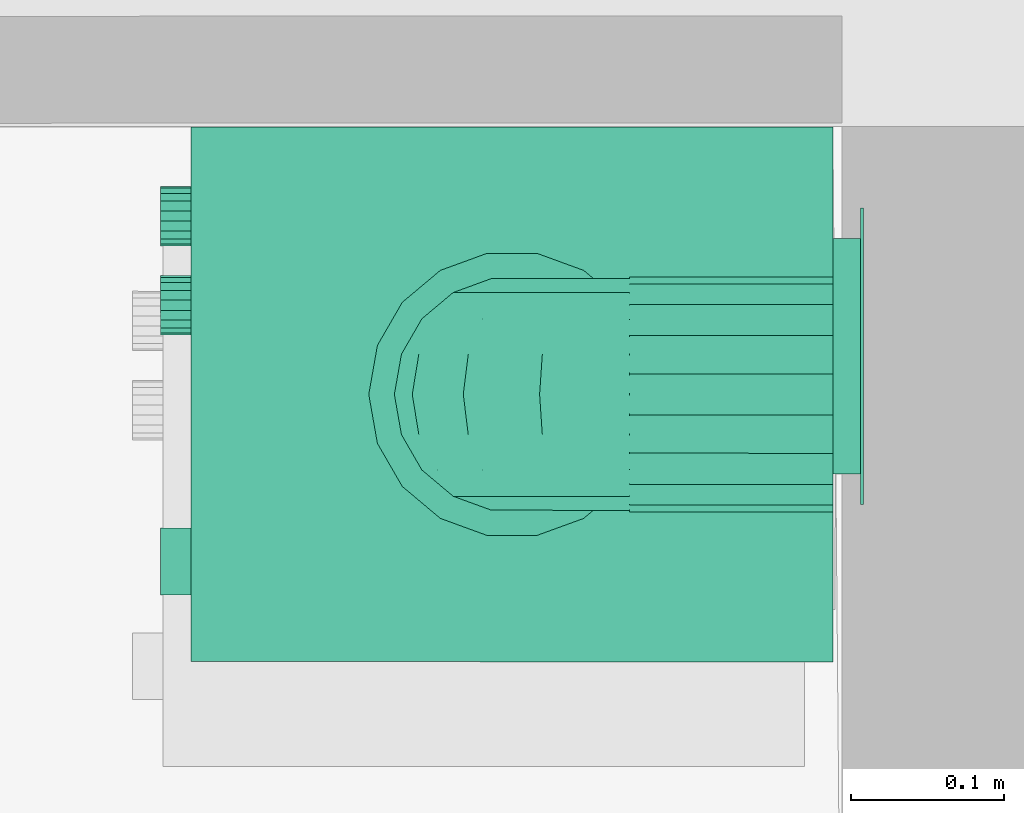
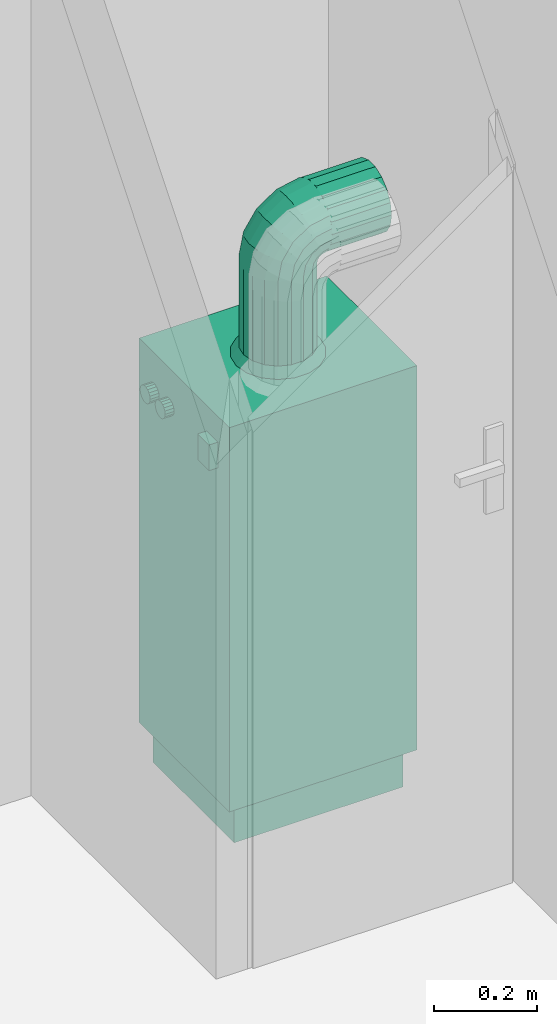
# One storey, part 129 of 171: 1 distribution element.
"""IFC2X3 building model written with IfcOpenShell, lengths in millimetres."""

from ifc_helpers import new_model, entity, si_unit, converted_unit, derived_unit, money_unit, direction, frame, origin_with_axes, place, context, subcontext, project, spatial, open_shell, faceted_brep, surface_model, type_object, element, save


model = new_model("IFC2X3")

# Units and contexts
model_context = context("Model", 3, precision=0.01, world=origin_with_axes(), true_north=direction((0.0, 1.0)))
body_context = subcontext(model_context, "Body", "Model", "MODEL_VIEW")
ifc_project = project(units=[si_unit("LENGTHUNIT", "METRE", prefix="MILLI"), si_unit("AREAUNIT", "SQUARE_METRE"), si_unit("VOLUMEUNIT", "CUBIC_METRE"), converted_unit("PLANEANGLEUNIT", "DEGREE", entity("IfcPlaneAngleMeasure", 0.0174532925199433), si_unit("PLANEANGLEUNIT", "RADIAN"), dimensions=[0, 0, 0, 0, 0, 0, 0]), money_unit("USD"), converted_unit("TIMEUNIT", "Year", entity("IfcTimeMeasure", 31557600.0), si_unit("TIMEUNIT", "SECOND"), dimensions=[0, 0, 1, 0, 0, 0, 0]), si_unit("MASSUNIT", "GRAM", prefix="KILO"), si_unit("THERMODYNAMICTEMPERATUREUNIT", "DEGREE_CELSIUS"), si_unit("LUMINOUSINTENSITYUNIT", "LUMEN"), si_unit("ENERGYUNIT", "JOULE", prefix="MEGA"), derived_unit("THERMALCONDUCTANCEUNIT", [(si_unit("POWERUNIT", "WATT"), 1), (si_unit("LENGTHUNIT", "METRE"), -1), (si_unit("THERMODYNAMICTEMPERATUREUNIT", "KELVIN"), -1)]), derived_unit("SPECIFICHEATCAPACITYUNIT", [(si_unit("ENERGYUNIT", "JOULE"), 1), (si_unit("MASSUNIT", "GRAM", prefix="KILO"), -1), (si_unit("THERMODYNAMICTEMPERATUREUNIT", "KELVIN"), -1)]), derived_unit("MASSDENSITYUNIT", [(si_unit("MASSUNIT", "GRAM", prefix="KILO"), 1), (si_unit("VOLUMEUNIT", "CUBIC_METRE"), -1)])], contexts=[model_context])

# Site, building, storey
site_placement = place(None, origin_with_axes())
site = spatial("IfcSite", under=ifc_project, at=site_placement, Name="Site", CompositionType="ELEMENT")
building_placement = place(site_placement, origin_with_axes())
building = spatial("IfcBuilding", under=site, at=building_placement, Name="Bâtiment", CompositionType="ELEMENT")
storey_placement = place(building_placement, frame((0.0, 0.0, 3000.0), z_axis=(0.0, 0.0, 1.0), x_axis=(1.0, 0.0, 0.0)))
storey = spatial("IfcBuildingStorey", under=building, at=storey_placement, Name="rdc", CompositionType="ELEMENT", Elevation=3000.0)

# Distribution element
distribution_element_type = type_object("IfcDistributionElementType", Name="Chaudière à gaz 27")
distribution_element_placement = place(storey_placement, frame((2233590.622808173, -652762.7821506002, 0.0), z_axis=(0.0, 0.0, 1.0), x_axis=(-0.0001702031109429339, -0.9999999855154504, 0.0)))
element("IfcDistributionElement", 1, at=distribution_element_placement, inside=storey, type_object=distribution_element_type, Name="Obj.-003", context=body_context, shape_type="SurfaceModel", body=[
    surface_model("IfcShellBasedSurfaceModel", [(-200.0, 420.0, 34.90909090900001), (-200.0, 438.0, 34.90909090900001), (-180.0709335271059, 438.0, 37.53280228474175), (-180.0709335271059, 420.0, 37.53280228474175), (-219.9290664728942, 420.0, 37.53280228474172), (-219.9290664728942, 438.0, 37.53280228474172), (-161.5, 438.0, 45.22513481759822), (-161.5, 420.0, 45.22513481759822), (-238.5000000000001, 420.0, 45.22513481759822), (-238.5000000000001, 438.0, 45.22513481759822), (-145.5527778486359, 438.0, 57.46186875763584), (-145.5527778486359, 420.0, 57.46186875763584), (-254.4472221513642, 420.0, 57.46186875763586), (-254.4472221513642, 438.0, 57.46186875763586), (-133.3160439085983, 438.0, 73.409090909), (-133.3160439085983, 420.0, 73.409090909), (-266.6839560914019, 420.0, 73.40909090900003), (-266.6839560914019, 438.0, 73.40909090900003), (-125.6237113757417, 438.0, 91.9800244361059), (-125.6237113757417, 420.0, 91.9800244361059), (-274.3762886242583, 420.0, 91.98002443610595), (-274.3762886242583, 438.0, 91.98002443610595), (-123.0, 438.0, 111.909090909), (-123.0, 420.0, 111.909090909), (-277.0, 420.0, 111.909090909), (-277.0, 438.0, 111.909090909), (-125.6237113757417, 438.0, 131.8381573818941), (-125.6237113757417, 420.0, 131.8381573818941), (-274.3762886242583, 420.0, 131.8381573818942), (-274.3762886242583, 438.0, 131.8381573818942), (-133.3160439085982, 438.0, 150.409090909), (-133.3160439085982, 420.0, 150.409090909), (-266.6839560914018, 420.0, 150.4090909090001), (-266.6839560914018, 438.0, 150.4090909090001), (-145.5527778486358, 438.0, 166.3563130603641), (-145.5527778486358, 420.0, 166.3563130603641), (-254.4472221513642, 420.0, 166.3563130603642), (-254.4472221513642, 438.0, 166.3563130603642), (-161.5, 438.0, 178.5930470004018), (-161.5, 420.0, 178.5930470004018), (-238.5, 420.0, 178.5930470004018), (-238.5, 438.0, 178.5930470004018), (-180.0709335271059, 438.0, 186.2853795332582), (-180.0709335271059, 420.0, 186.2853795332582), (-219.929066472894, 420.0, 186.2853795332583), (-219.929066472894, 438.0, 186.2853795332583), (-200.0, 438.0, 188.909090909), (-200.0, 420.0, 188.909090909)], [open_shell([[[0, 1, 2, 3]], [[4, 5, 1, 0]], [[3, 2, 6, 7]], [[8, 9, 5, 4]], [[7, 6, 10, 11]], [[12, 13, 9, 8]], [[11, 10, 14, 15]], [[16, 17, 13, 12]], [[15, 14, 18, 19]], [[20, 21, 17, 16]], [[19, 18, 22, 23]], [[24, 25, 21, 20]], [[23, 22, 26, 27]], [[28, 29, 25, 24]], [[27, 26, 30, 31]], [[32, 33, 29, 28]], [[31, 30, 34, 35]], [[36, 37, 33, 32]], [[35, 34, 38, 39]], [[40, 41, 37, 36]], [[39, 38, 42, 43]], [[44, 45, 41, 40]], [[43, 42, 46, 47]], [[47, 46, 45, 44]]])]),
    faceted_brep([(-200.0, 438.0, 14.909090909), (-200.0, 440.0, 14.909090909), (-174.8945526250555, 440.0, 18.21428575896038), (-174.8945526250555, 438.0, 18.21428575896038), (-225.1054473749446, 438.0, 18.21428575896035), (-225.1054473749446, 440.0, 18.21428575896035), (-248.5000000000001, 440.0, 27.90462674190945), (-268.5893577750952, 440.0, 43.31973313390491), (-284.0044641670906, 440.0, 63.40909090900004), (-293.6948051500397, 440.0, 86.80364353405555), (-297.0000000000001, 440.0, 111.909090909), (-293.6948051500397, 440.0, 137.0145382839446), (-284.0044641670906, 440.0, 160.4090909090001), (-268.5893577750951, 440.0, 180.4984486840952), (-248.5, 440.0, 195.9135550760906), (-225.1054473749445, 440.0, 205.6038960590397), (-199.9999999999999, 440.0, 208.909090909), (-174.8945526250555, 440.0, 205.6038960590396), (-151.5, 440.0, 195.9135550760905), (-131.4106422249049, 440.0, 180.4984486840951), (-115.9955358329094, 440.0, 160.409090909), (-106.3051948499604, 440.0, 137.0145382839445), (-103.0, 440.0, 111.909090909), (-106.3051948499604, 440.0, 86.80364353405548), (-115.9955358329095, 440.0, 63.40909090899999), (-131.4106422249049, 440.0, 43.31973313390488), (-151.5, 440.0, 27.90462674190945), (-200.0, 440.0, 34.90909090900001), (-180.0709335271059, 440.0, 37.53280228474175), (-161.5, 440.0, 45.22513481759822), (-145.5527778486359, 440.0, 57.46186875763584), (-133.3160439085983, 440.0, 73.409090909), (-125.6237113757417, 440.0, 91.9800244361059), (-123.0, 440.0, 111.909090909), (-125.6237113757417, 440.0, 131.8381573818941), (-133.3160439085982, 440.0, 150.409090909), (-145.5527778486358, 440.0, 166.3563130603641), (-161.5, 440.0, 178.5930470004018), (-180.0709335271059, 440.0, 186.2853795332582), (-200.0, 440.0, 188.909090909), (-219.929066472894, 440.0, 186.2853795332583), (-238.5, 440.0, 178.5930470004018), (-254.4472221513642, 440.0, 166.3563130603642), (-266.6839560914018, 440.0, 150.4090909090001), (-274.3762886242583, 440.0, 131.8381573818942), (-277.0, 440.0, 111.909090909), (-274.3762886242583, 440.0, 91.98002443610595), (-266.6839560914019, 440.0, 73.40909090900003), (-254.4472221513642, 440.0, 57.46186875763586), (-238.5000000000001, 440.0, 45.22513481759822), (-219.9290664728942, 440.0, 37.53280228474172), (-151.5, 438.0, 27.90462674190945), (-131.4106422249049, 438.0, 43.31973313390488), (-115.9955358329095, 438.0, 63.40909090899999), (-106.3051948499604, 438.0, 86.80364353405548), (-103.0, 438.0, 111.909090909), (-106.3051948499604, 438.0, 137.0145382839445), (-115.9955358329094, 438.0, 160.409090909), (-131.4106422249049, 438.0, 180.4984486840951), (-151.5, 438.0, 195.9135550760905), (-174.8945526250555, 438.0, 205.6038960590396), (-199.9999999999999, 438.0, 208.909090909), (-225.1054473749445, 438.0, 205.6038960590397), (-248.5, 438.0, 195.9135550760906), (-268.5893577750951, 438.0, 180.4984486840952), (-284.0044641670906, 438.0, 160.4090909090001), (-293.6948051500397, 438.0, 137.0145382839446), (-297.0000000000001, 438.0, 111.909090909), (-293.6948051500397, 438.0, 86.80364353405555), (-284.0044641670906, 438.0, 63.40909090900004), (-268.5893577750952, 438.0, 43.31973313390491), (-248.5000000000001, 438.0, 27.90462674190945), (-200.0, 438.0, 34.90909090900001), (-219.9290664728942, 438.0, 37.53280228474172), (-238.5000000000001, 438.0, 45.22513481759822), (-254.4472221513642, 438.0, 57.46186875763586), (-266.6839560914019, 438.0, 73.40909090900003), (-274.3762886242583, 438.0, 91.98002443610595), (-277.0, 438.0, 111.909090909), (-274.3762886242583, 438.0, 131.8381573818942), (-266.6839560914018, 438.0, 150.4090909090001), (-254.4472221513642, 438.0, 166.3563130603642), (-238.5, 438.0, 178.5930470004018), (-219.929066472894, 438.0, 186.2853795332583), (-200.0, 438.0, 188.909090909), (-180.0709335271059, 438.0, 186.2853795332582), (-161.5, 438.0, 178.5930470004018), (-145.5527778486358, 438.0, 166.3563130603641), (-133.3160439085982, 438.0, 150.409090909), (-125.6237113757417, 438.0, 131.8381573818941), (-123.0, 438.0, 111.909090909), (-125.6237113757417, 438.0, 91.9800244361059), (-133.3160439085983, 438.0, 73.409090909), (-145.5527778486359, 438.0, 57.46186875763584), (-161.5, 438.0, 45.22513481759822), (-180.0709335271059, 438.0, 37.53280228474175)], [[[0, 1, 2, 3]], [[4, 5, 1, 0]], [[1, 5, 6, 7, 8, 9, 10, 11, 12, 13, 14, 15, 16, 17, 18, 19, 20, 21, 22, 23, 24, 25, 26, 2], [27, 28, 29, 30, 31, 32, 33, 34, 35, 36, 37, 38, 39, 40, 41, 42, 43, 44, 45, 46, 47, 48, 49, 50]], [[3, 2, 26, 51]], [[0, 3, 51, 52, 53, 54, 55, 56, 57, 58, 59, 60, 61, 62, 63, 64, 65, 66, 67, 68, 69, 70, 71, 4], [72, 73, 74, 75, 76, 77, 78, 79, 80, 81, 82, 83, 84, 85, 86, 87, 88, 89, 90, 91, 92, 93, 94, 95]], [[71, 6, 5, 4]], [[70, 7, 6, 71]], [[69, 8, 7, 70]], [[68, 9, 8, 69]], [[67, 10, 9, 68]], [[66, 11, 10, 67]], [[65, 12, 11, 66]], [[64, 13, 12, 65]], [[63, 14, 13, 64]], [[62, 15, 14, 63]], [[61, 16, 15, 62]], [[60, 17, 16, 61]], [[59, 18, 17, 60]], [[58, 19, 18, 59]], [[57, 20, 19, 58]], [[56, 21, 20, 57]], [[55, 22, 21, 56]], [[54, 23, 22, 55]], [[53, 24, 23, 54]], [[52, 25, 24, 53]], [[51, 26, 25, 52]], [[95, 28, 27, 72]], [[94, 29, 28, 95]], [[93, 30, 29, 94]], [[92, 31, 30, 93]], [[91, 32, 31, 92]], [[90, 33, 32, 91]], [[89, 34, 33, 90]], [[88, 35, 34, 89]], [[87, 36, 35, 88]], [[86, 37, 36, 87]], [[85, 38, 37, 86]], [[84, 39, 38, 85]], [[83, 40, 39, 84]], [[82, 41, 40, 83]], [[81, 42, 41, 82]], [[80, 43, 42, 81]], [[79, 44, 43, 80]], [[78, 45, 44, 79]], [[77, 46, 45, 78]], [[76, 47, 46, 77]], [[75, 48, 47, 76]], [[74, 49, 48, 75]], [[73, 50, 49, 74]], [[72, 27, 50, 73]]]),
    faceted_brep([(-332.5, 21.0, 0.0), (-332.5, 399.0, 0.0), (-17.5, 399.0, 0.0), (-17.5, 21.0, 0.0), (-332.5, 21.0, 90.9090909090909), (-332.5, 399.0, 90.9090909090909), (-17.5, 399.0, 90.9090909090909), (-17.5, 21.0, 90.9090909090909)], [[[0, 1, 2, 3]], [[0, 4, 5, 1]], [[1, 5, 6, 2]], [[2, 6, 7, 3]], [[3, 7, 4, 0]], [[7, 6, 5, 4]]]),
    faceted_brep([(0.0, 420.0, 90.9090909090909), (-350.0, 420.0, 90.90909090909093), (-349.9999999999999, 420.0, 1000.0), (0.0, 420.0, 1000.0), (0.0, 0.0, 90.9090909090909), (-350.0, 0.0, 90.90909090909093), (-349.9999999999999, 0.0, 818.1818181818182), (-349.9999999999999, 21.0, 818.1818181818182), (-349.9999999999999, 21.0, 1000.0), (0.0, 21.0, 1000.0), (0.0, 21.0, 818.1818181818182), (0.0, 0.0, 818.1818181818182)], [[[0, 1, 2, 3]], [[4, 5, 1, 0]], [[1, 5, 6, 7, 8, 2]], [[3, 2, 8, 9]], [[0, 3, 9, 10, 11, 4]], [[11, 6, 5, 4]], [[10, 7, 6, 11]], [[9, 8, 7, 10]]]),
    faceted_brep([(-350.0, 0.0, 818.1818181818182), (-350.0, 21.0, 818.1818181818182), (0.0, 21.0, 818.1818181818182), (0.0, 0.0, 818.1818181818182), (-350.0, 0.0, 1000.0), (-350.0, 21.0, 1000.0), (0.0, 21.0, 1000.0), (0.0, 0.0, 1000.0)], [[[0, 1, 2, 3]], [[0, 4, 5, 1]], [[1, 5, 6, 2]], [[2, 6, 7, 3]], [[3, 7, 4, 0]], [[7, 6, 5, 4]]]),
    faceted_brep([(-251.6051342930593, 0.0, 902.4405174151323), (-252.7777777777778, 0.0, 909.0909090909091), (-251.6051342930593, 0.0, 915.741300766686), (-248.2286419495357, 0.0, 921.5895570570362), (-243.0555555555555, 0.0, 925.9302919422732), (-236.709825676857, 0.0, 928.2399487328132), (-229.9568409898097, 0.0, 928.2399487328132), (-223.6111111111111, 0.0, 925.9302919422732), (-218.438024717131, 0.0, 921.5895570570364), (-215.0615323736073, 0.0, 915.741300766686), (-213.8888888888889, 0.0, 909.0909090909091), (-215.0615323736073, 0.0, 902.4405174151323), (-218.438024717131, 0.0, 896.5922611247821), (-223.6111111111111, 0.0, 892.2515262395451), (-229.9568409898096, 0.0, 889.9418694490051), (-236.709825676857, 0.0, 889.9418694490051), (-243.0555555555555, 0.0, 892.2515262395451), (-248.2286419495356, 0.0, 896.592261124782), (-251.6051342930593, -19.99999999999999, 902.4405174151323), (-252.7777777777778, -19.99999999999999, 909.0909090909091), (-251.6051342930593, -19.99999999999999, 915.741300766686), (-248.2286419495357, -19.99999999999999, 921.5895570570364), (-243.0555555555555, -19.99999999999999, 925.9302919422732), (-236.709825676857, -19.99999999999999, 928.2399487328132), (-229.9568409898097, -19.99999999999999, 928.2399487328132), (-223.6111111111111, -19.99999999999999, 925.9302919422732), (-218.438024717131, -19.99999999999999, 921.5895570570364), (-215.0615323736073, -19.99999999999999, 915.741300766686), (-213.8888888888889, -19.99999999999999, 909.0909090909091), (-215.0615323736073, -19.99999999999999, 902.4405174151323), (-218.438024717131, -19.99999999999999, 896.5922611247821), (-223.6111111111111, -19.99999999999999, 892.2515262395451), (-229.9568409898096, -19.99999999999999, 889.9418694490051), (-236.709825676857, -19.99999999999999, 889.9418694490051), (-243.0555555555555, -19.99999999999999, 892.2515262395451), (-248.2286419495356, -19.99999999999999, 896.592261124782)], [[[0, 1, 2, 3, 4, 5, 6, 7, 8, 9, 10, 11, 12, 13, 14, 15, 16, 17]], [[0, 18, 19, 1]], [[1, 19, 20, 2]], [[2, 20, 21, 3]], [[3, 21, 22, 4]], [[4, 22, 23, 5]], [[5, 23, 24, 6]], [[6, 24, 25, 7]], [[7, 25, 26, 8]], [[8, 26, 27, 9]], [[9, 27, 28, 10]], [[10, 28, 29, 11]], [[11, 29, 30, 12]], [[12, 30, 31, 13]], [[13, 31, 32, 14]], [[14, 32, 33, 15]], [[15, 33, 34, 16]], [[16, 34, 35, 17]], [[17, 35, 18, 0]], [[18, 35, 34, 33, 32, 31, 30, 29, 28, 27, 26, 25, 24, 23, 22, 21, 20, 19]]]),
    faceted_brep([(-309.9384676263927, 0.0, 902.4405174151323), (-311.1111111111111, 0.0, 909.0909090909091), (-309.9384676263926, 0.0, 915.741300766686), (-306.561975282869, 0.0, 921.5895570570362), (-301.3888888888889, 0.0, 925.9302919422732), (-295.0431590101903, 0.0, 928.2399487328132), (-288.290174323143, 0.0, 928.2399487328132), (-281.9444444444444, 0.0, 925.9302919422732), (-276.7713580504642, 0.0, 921.5895570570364), (-273.3948657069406, 0.0, 915.741300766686), (-272.2222222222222, 0.0, 909.0909090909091), (-273.3948657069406, 0.0, 902.4405174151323), (-276.7713580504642, 0.0, 896.5922611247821), (-281.9444444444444, 0.0, 892.2515262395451), (-288.290174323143, 0.0, 889.9418694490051), (-295.0431590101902, 0.0, 889.9418694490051), (-301.3888888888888, 0.0, 892.2515262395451), (-306.561975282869, 0.0, 896.592261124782), (-309.9384676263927, -19.99999999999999, 902.4405174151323), (-311.1111111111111, -19.99999999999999, 909.0909090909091), (-309.9384676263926, -19.99999999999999, 915.741300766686), (-306.561975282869, -19.99999999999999, 921.5895570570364), (-301.3888888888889, -19.99999999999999, 925.9302919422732), (-295.0431590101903, -19.99999999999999, 928.2399487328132), (-288.290174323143, -19.99999999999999, 928.2399487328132), (-281.9444444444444, -19.99999999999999, 925.9302919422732), (-276.7713580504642, -19.99999999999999, 921.5895570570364), (-273.3948657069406, -19.99999999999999, 915.741300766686), (-272.2222222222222, -19.99999999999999, 909.0909090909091), (-273.3948657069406, -19.99999999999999, 902.4405174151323), (-276.7713580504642, -19.99999999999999, 896.5922611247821), (-281.9444444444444, -19.99999999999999, 892.2515262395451), (-288.290174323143, -19.99999999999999, 889.9418694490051), (-295.0431590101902, -19.99999999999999, 889.9418694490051), (-301.3888888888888, -19.99999999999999, 892.2515262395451), (-306.561975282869, -19.99999999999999, 896.592261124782)], [[[0, 1, 2, 3, 4, 5, 6, 7, 8, 9, 10, 11, 12, 13, 14, 15, 16, 17]], [[0, 18, 19, 1]], [[1, 19, 20, 2]], [[2, 20, 21, 3]], [[3, 21, 22, 4]], [[4, 22, 23, 5]], [[5, 23, 24, 6]], [[6, 24, 25, 7]], [[7, 25, 26, 8]], [[8, 26, 27, 9]], [[9, 27, 28, 10]], [[10, 28, 29, 11]], [[11, 29, 30, 12]], [[12, 30, 31, 13]], [[13, 31, 32, 14]], [[14, 32, 33, 15]], [[15, 33, 34, 16]], [[16, 34, 35, 17]], [[17, 35, 18, 0]], [[18, 35, 34, 33, 32, 31, 30, 29, 28, 27, 26, 25, 24, 23, 22, 21, 20, 19]]]),
    faceted_brep([(-87.5, 0.0, 878.7878787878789), (-87.5, 0.0, 939.3939393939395), (-43.75, 0.0, 939.3939393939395), (-43.75, 0.0, 878.7878787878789), (-87.5, -20.0, 878.7878787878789), (-87.5, -19.99999999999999, 939.3939393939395), (-43.75, -19.99999999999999, 939.3939393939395), (-43.75, -20.0, 878.7878787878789)], [[[0, 1, 2, 3]], [[0, 4, 5, 1]], [[1, 5, 6, 2]], [[2, 6, 7, 3]], [[3, 7, 4, 0]], [[7, 6, 5, 4]]]),
    surface_model("IfcShellBasedSurfaceModel", [(-148.6644489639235, 282.356331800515, 1220.0), (-148.6644489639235, 282.356331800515, 1020.0), (-175.0, 287.0, 1020.0), (-175.0, 287.0, 1220.0), (-125.5053540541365, 268.9854221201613, 1220.0), (-125.5053540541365, 268.9854221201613, 1020.0), (-142.9356115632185, 298.0961831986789, 1000.0), (-175.0, 303.7499999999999, 1000.0), (-201.3355510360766, 282.356331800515, 1020.0), (-201.3355510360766, 282.356331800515, 1220.0), (-108.3160439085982, 248.5, 1220.0), (-108.3160439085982, 248.5, 1020.0), (-114.7386615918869, 281.8166665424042, 1000.0), (-207.0643884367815, 298.0961831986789, 1000.0), (-224.4946459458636, 268.9854221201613, 1020.0), (-224.4946459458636, 268.9854221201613, 1220.0), (-99.16980301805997, 223.3709096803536, 1220.0), (-99.16980301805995, 223.3709096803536, 1020.0), (-93.81011839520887, 256.8749999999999, 1000.0), (-235.2613384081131, 281.8166665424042, 1000.0), (-241.6839560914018, 248.4999999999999, 1020.0), (-241.6839560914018, 248.4999999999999, 1220.0), (-99.16980301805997, 196.6290903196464, 1220.0), (-99.16980301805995, 196.6290903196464, 1020.0), (-82.6742731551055, 226.2795166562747, 1000.0), (-256.1898816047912, 256.8749999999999, 1000.0), (-250.83019698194, 223.3709096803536, 1020.0), (-250.8301969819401, 223.3709096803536, 1220.0), (-108.3160439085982, 171.5, 1220.0), (-108.3160439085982, 171.5, 1020.0), (-82.67427315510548, 193.7204833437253, 1000.0), (-267.3257268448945, 226.2795166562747, 1000.0), (-250.83019698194, 196.6290903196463, 1020.0), (-250.83019698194, 196.6290903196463, 1220.0), (-125.5053540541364, 151.0145778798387, 1220.0), (-125.5053540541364, 151.0145778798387, 1020.0), (-93.81011839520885, 163.125, 1000.0), (-267.3257268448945, 193.7204833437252, 1000.0), (-241.6839560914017, 171.4999999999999, 1020.0), (-241.6839560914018, 171.4999999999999, 1220.0), (-148.6644489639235, 137.643668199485, 1220.0), (-148.6644489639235, 137.643668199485, 1020.0), (-114.7386615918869, 138.1833334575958, 1000.0), (-256.1898816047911, 163.1249999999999, 1000.0), (-224.4946459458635, 151.0145778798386, 1020.0), (-224.4946459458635, 151.0145778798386, 1220.0), (-175.0, 133.0, 1220.0), (-175.0, 133.0, 1020.0), (-142.9356115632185, 121.9038168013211, 1000.0), (-235.261338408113, 138.1833334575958, 1000.0), (-201.3355510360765, 137.643668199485, 1020.0), (-201.3355510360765, 137.643668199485, 1220.0), (-175.0, 116.25, 1000.0), (-207.0643884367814, 121.9038168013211, 1000.0)], [open_shell([[[0, 1, 2, 3]], [[4, 5, 1, 0]], [[1, 6, 7, 2]], [[3, 2, 8, 9]], [[10, 11, 5, 4]], [[5, 12, 6, 1]], [[2, 7, 13, 8]], [[9, 8, 14, 15]], [[16, 17, 11, 10]], [[11, 18, 12, 5]], [[8, 13, 19, 14]], [[15, 14, 20, 21]], [[22, 23, 17, 16]], [[17, 24, 18, 11]], [[14, 19, 25, 20]], [[21, 20, 26, 27]], [[28, 29, 23, 22]], [[23, 30, 24, 17]], [[20, 25, 31, 26]], [[27, 26, 32, 33]], [[34, 35, 29, 28]], [[29, 36, 30, 23]], [[26, 31, 37, 32]], [[33, 32, 38, 39]], [[40, 41, 35, 34]], [[35, 42, 36, 29]], [[32, 37, 43, 38]], [[39, 38, 44, 45]], [[46, 47, 41, 40]], [[41, 48, 42, 35]], [[38, 43, 49, 44]], [[45, 44, 50, 51]], [[51, 50, 47, 46]], [[47, 52, 48, 41]], [[44, 49, 53, 50]], [[50, 53, 52, 47]]])]),
    faceted_brep([(-250.83019698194, 196.6290903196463, 1220.0), (-250.83019698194, 203.5081662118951, 1254.583449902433), (-250.83019698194, 228.2143857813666, 1244.349798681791), (-250.83019698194, 223.3709096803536, 1220.0), (-241.6839560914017, 171.4999999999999, 1220.0), (-241.6839560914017, 180.2919139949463, 1264.199936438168), (-250.83019698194, 223.0981169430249, 1283.901883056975), (-250.83019698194, 242.0074387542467, 1264.992561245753), (-241.6839560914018, 248.4999999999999, 1220.0), (-241.6839560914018, 251.4306379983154, 1234.733312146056), (-224.4946459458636, 268.9854221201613, 1220.0), (-201.3355510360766, 282.356331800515, 1220.0), (-175.0, 287.0, 1220.0), (-148.6644489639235, 282.356331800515, 1220.0), (-125.5053540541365, 268.9854221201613, 1220.0), (-108.3160439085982, 248.5, 1220.0), (-99.16980301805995, 223.3709096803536, 1220.0), (-99.16980301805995, 196.6290903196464, 1220.0), (-108.3160439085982, 171.5, 1220.0), (-125.5053540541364, 151.0145778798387, 1220.0), (-148.6644489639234, 137.643668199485, 1220.0), (-175.0, 132.9999999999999, 1220.0), (-201.3355510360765, 137.643668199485, 1220.0), (-224.4946459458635, 151.0145778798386, 1220.0), (-224.4946459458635, 161.3658517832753, 1272.039368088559), (-241.6839560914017, 205.3291667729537, 1301.670833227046), (-250.83019698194, 252.4165500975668, 1303.491833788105), (-250.83019698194, 262.6502013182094, 1278.785614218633), (-241.6839560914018, 259.7763889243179, 1247.223611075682), (-224.4946459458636, 270.3567002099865, 1226.893880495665), (-201.3355510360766, 282.7098099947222, 1221.777054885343), (-148.6644489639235, 282.7098099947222, 1221.777054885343), (-125.5053540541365, 270.3567002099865, 1226.893880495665), (-108.3160439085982, 251.4306379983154, 1234.733312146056), (-99.16980301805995, 228.2143857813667, 1244.349798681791), (-99.16980301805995, 203.5081662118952, 1254.583449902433), (-108.3160439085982, 180.2919139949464, 1264.199936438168), (-125.5053540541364, 161.3658517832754, 1272.039368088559), (-148.6644489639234, 149.0127419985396, 1277.15619369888), (-175.0, 144.7225519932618, 1278.933248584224), (-201.3355510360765, 149.0127419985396, 1277.15619369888), (-224.4946459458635, 190.8437858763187, 1316.156214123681), (-241.6839560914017, 242.8000635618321, 1326.708086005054), (-250.83019698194, 287.0000000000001, 1310.370909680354), (-250.83019698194, 287.0000000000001, 1283.629090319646), (-241.6839560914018, 272.266687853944, 1255.569362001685), (-224.4946459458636, 274.2617698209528, 1232.738230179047), (-201.3355510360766, 283.7164307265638, 1223.283569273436), (-148.6644489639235, 283.7164307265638, 1223.283569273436), (-125.5053540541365, 274.2617698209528, 1232.738230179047), (-108.3160439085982, 259.7763889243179, 1247.223611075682), (-99.16980301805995, 242.0074387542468, 1264.992561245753), (-99.16980301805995, 223.098116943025, 1283.901883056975), (-108.3160439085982, 205.3291667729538, 1301.670833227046), (-125.5053540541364, 190.8437858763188, 1316.156214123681), (-148.6644489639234, 181.3891249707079, 1325.610875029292), (-175.0, 178.1055556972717, 1328.894444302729), (-201.3355510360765, 181.3891249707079, 1325.610875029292), (-224.4946459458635, 234.9606319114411, 1345.634148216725), (-241.6839560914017, 287.0000000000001, 1335.5), (-241.6839560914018, 287.0, 1258.5), (-224.4946459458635, 287.0000000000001, 1355.985422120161), (-201.3355510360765, 287.0000000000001, 1369.356331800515), (-175.0, 287.0000000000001, 1374.0), (-148.6644489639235, 287.0000000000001, 1369.356331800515), (-125.5053540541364, 287.0000000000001, 1355.985422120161), (-108.3160439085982, 287.0000000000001, 1335.5), (-99.16980301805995, 287.0000000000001, 1310.370909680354), (-99.16980301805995, 287.0000000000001, 1283.629090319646), (-108.3160439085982, 287.0, 1258.5), (-125.5053540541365, 287.0, 1238.014577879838), (-148.6644489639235, 287.0, 1224.643668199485), (-201.3355510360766, 287.0, 1224.643668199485), (-224.4946459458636, 287.0, 1238.014577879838), (-224.4946459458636, 280.1061195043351, 1236.643299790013), (-201.3355510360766, 285.2229451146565, 1224.290190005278), (-148.6644489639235, 285.2229451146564, 1224.290190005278), (-125.5053540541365, 280.1061195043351, 1236.643299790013), (-108.3160439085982, 272.266687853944, 1255.569362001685), (-99.16980301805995, 262.6502013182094, 1278.785614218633), (-99.16980301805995, 252.4165500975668, 1303.491833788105), (-108.3160439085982, 242.8000635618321, 1326.708086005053), (-125.5053540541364, 234.9606319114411, 1345.634148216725), (-148.6644489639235, 229.8438063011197, 1357.98725800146), (-175.0, 228.0667514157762, 1362.277448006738), (-201.3355510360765, 229.8438063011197, 1357.98725800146)], [[[0, 1, 2, 3]], [[1, 0, 4, 5]], [[1, 6, 7, 2]], [[8, 3, 2, 9]], [[4, 0, 3, 8, 10, 11, 12, 13, 14, 15, 16, 17, 18, 19, 20, 21, 22, 23]], [[5, 4, 23, 24]], [[6, 1, 5, 25]], [[7, 6, 26, 27]], [[2, 7, 28, 9]], [[29, 10, 8, 9]], [[10, 29, 30, 11]], [[11, 30, 12]], [[31, 13, 12]], [[13, 31, 32, 14]], [[33, 15, 14, 32]], [[15, 33, 34, 16]], [[35, 17, 16, 34]], [[18, 17, 35, 36]], [[37, 19, 18, 36]], [[20, 19, 37, 38]], [[39, 21, 20, 38]], [[22, 21, 39, 40]], [[24, 23, 22, 40]], [[25, 5, 24, 41]], [[6, 25, 42, 26]], [[27, 26, 43, 44]], [[45, 28, 7, 27]], [[46, 29, 9, 28]], [[29, 46, 47, 30]], [[30, 47, 12]], [[48, 31, 12]], [[31, 48, 49, 32]], [[32, 49, 50, 33]], [[34, 33, 50, 51]], [[52, 35, 34, 51]], [[35, 52, 53, 36]], [[54, 37, 36, 53]], [[38, 37, 54, 55]], [[56, 39, 38, 55]], [[57, 40, 39, 56]], [[41, 24, 40, 57]], [[42, 25, 41, 58]], [[26, 42, 59, 43]], [[60, 44, 43, 59, 61, 62, 63, 64, 65, 66, 67, 68, 69, 70, 71, 12, 72, 73]], [[45, 27, 44, 60]], [[28, 45, 74, 46]], [[46, 74, 75, 47]], [[47, 75, 12]], [[76, 48, 12]], [[48, 76, 77, 49]], [[49, 77, 78, 50]], [[50, 78, 79, 51]], [[52, 51, 79, 80]], [[53, 52, 80, 81]], [[82, 54, 53, 81]], [[55, 54, 82, 83]], [[56, 55, 83, 84]], [[85, 57, 56, 84]], [[58, 41, 57, 85]], [[59, 42, 58, 61]], [[61, 58, 85, 62]], [[62, 85, 84, 63]], [[84, 83, 64, 63]], [[82, 65, 64, 83]], [[65, 82, 81, 66]], [[81, 80, 67, 66]], [[80, 79, 68, 67]], [[79, 78, 69, 68]], [[77, 70, 69, 78]], [[77, 76, 71, 70]], [[76, 12, 71]], [[75, 72, 12]], [[74, 73, 72, 75]], [[45, 60, 73, 74]]]),
    surface_model("IfcShellBasedSurfaceModel", [(-102.6436681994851, 420.0, 1323.335551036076), (-102.643668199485, 287.0, 1323.335551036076), (-97.99999999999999, 287.0, 1297.0), (-98.0, 420.0, 1297.0), (-116.0145778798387, 420.0, 1346.494645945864), (-116.0145778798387, 287.0, 1346.494645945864), (-102.643668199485, 287.0, 1270.664448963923), (-102.643668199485, 420.0, 1270.664448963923), (-136.5, 420.0, 1363.683956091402), (-136.5, 287.0, 1363.683956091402), (-116.0145778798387, 287.0, 1247.505354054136), (-116.0145778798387, 420.0, 1247.505354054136), (-161.6290903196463, 420.0, 1372.83019698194), (-161.6290903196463, 287.0, 1372.83019698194), (-136.5, 287.0, 1230.316043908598), (-136.5, 420.0, 1230.316043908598), (-188.3709096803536, 420.0, 1372.83019698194), (-188.3709096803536, 287.0, 1372.83019698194), (-161.6290903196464, 287.0, 1221.16980301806), (-161.6290903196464, 420.0, 1221.16980301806), (-213.5, 420.0, 1363.683956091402), (-213.5, 287.0, 1363.683956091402), (-188.3709096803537, 287.0, 1221.16980301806), (-188.3709096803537, 420.0, 1221.16980301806), (-233.9854221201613, 420.0, 1346.494645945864), (-233.9854221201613, 287.0, 1346.494645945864), (-213.5, 287.0, 1230.316043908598), (-213.5000000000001, 420.0, 1230.316043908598), (-247.356331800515, 420.0, 1323.335551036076), (-247.3563318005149, 287.0, 1323.335551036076), (-233.9854221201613, 287.0, 1247.505354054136), (-233.9854221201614, 420.0, 1247.505354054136), (-252.0, 420.0, 1297.0), (-252.0, 287.0, 1297.0), (-247.356331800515, 287.0, 1270.664448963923), (-247.356331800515, 420.0, 1270.664448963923)], [open_shell([[[0, 1, 2, 3]], [[4, 5, 1, 0]], [[3, 2, 6, 7]], [[8, 9, 5, 4]], [[7, 6, 10, 11]], [[12, 13, 9, 8]], [[11, 10, 14, 15]], [[16, 17, 13, 12]], [[15, 14, 18, 19]], [[20, 21, 17, 16]], [[19, 18, 22, 23]], [[24, 25, 21, 20]], [[23, 22, 26, 27]], [[28, 29, 25, 24]], [[27, 26, 30, 31]], [[32, 33, 29, 28]], [[31, 30, 34, 35]], [[35, 34, 33, 32]]])]),
])

save(model, "model.ifc")
